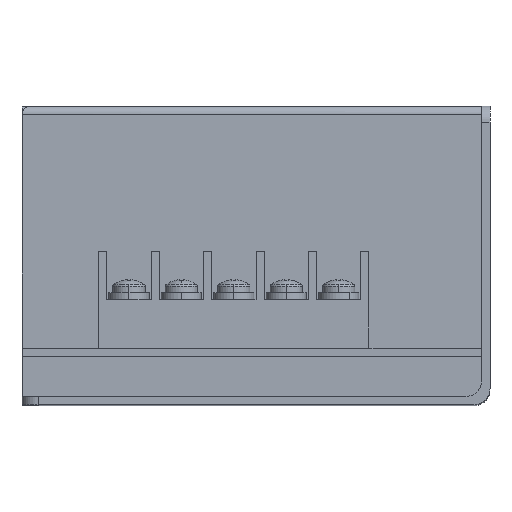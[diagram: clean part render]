
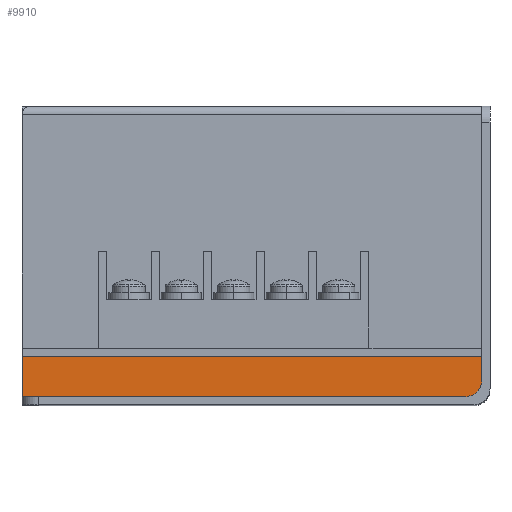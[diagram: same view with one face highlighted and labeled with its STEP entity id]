
A CAD part, top view. The second image highlights one B-rep face of the part: STEP entity #9910.
In plain terms, the highlighted planar face has unit normal (0, 0, 1).
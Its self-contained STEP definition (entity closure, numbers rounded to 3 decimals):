
#158 = CARTESIAN_POINT ( 'NONE',  ( 13.685, 35.93, 83.57 ) ) ;
#269 = VERTEX_POINT ( 'NONE', #2570 ) ;
#582 = LINE ( 'NONE', #10959, #8241 ) ;
#806 = VERTEX_POINT ( 'NONE', #6986 ) ;
#1092 = EDGE_CURVE ( 'NONE', #1863, #806, #582, .T. ) ;
#1620 = PLANE ( 'NONE',  #4776 ) ;
#1697 = CARTESIAN_POINT ( 'NONE',  ( 70.685, 37.93, 83.57 ) ) ;
#1863 = VERTEX_POINT ( 'NONE', #3238 ) ;
#1918 = EDGE_CURVE ( 'NONE', #2046, #269, #14001, .T. ) ;
#2046 = VERTEX_POINT ( 'NONE', #15527 ) ;
#2538 = EDGE_LOOP ( 'NONE', ( #5275, #4675, #10230, #9642, #2972 ) ) ;
#2570 = CARTESIAN_POINT ( 'NONE',  ( 70.685, 40.93, 83.57 ) ) ;
#2972 = ORIENTED_EDGE ( 'NONE', *, *, #9443, .T. ) ;
#3238 = CARTESIAN_POINT ( 'NONE',  ( 68.685, 35.93, 83.57 ) ) ;
#3401 = CIRCLE ( 'NONE', #7752, 2. ) ;
#3657 = CARTESIAN_POINT ( 'NONE',  ( 68.685, 37.93, 83.57 ) ) ;
#4079 = VECTOR ( 'NONE', #5188, 1000. ) ;
#4675 = ORIENTED_EDGE ( 'NONE', *, *, #7637, .F. ) ;
#4776 = AXIS2_PLACEMENT_3D ( 'NONE', #158, #5367, #10562 ) ;
#5188 = DIRECTION ( 'NONE',  ( 0., 1., 0. ) ) ;
#5275 = ORIENTED_EDGE ( 'NONE', *, *, #1918, .F. ) ;
#5367 = DIRECTION ( 'NONE',  ( 0., 0., -1. ) ) ;
#6378 = DIRECTION ( 'NONE',  ( 1., 0., 0. ) ) ;
#6381 = LINE ( 'NONE', #12916, #4079 ) ;
#6986 = CARTESIAN_POINT ( 'NONE',  ( 13.685, 35.93, 83.57 ) ) ;
#7576 = CARTESIAN_POINT ( 'NONE',  ( 13.685, 40.93, 83.57 ) ) ;
#7637 = EDGE_CURVE ( 'NONE', #806, #2046, #6381, .T. ) ;
#7671 = DIRECTION ( 'NONE',  ( 0., 1., 0. ) ) ;
#7752 = AXIS2_PLACEMENT_3D ( 'NONE', #3657, #12351, #16462 ) ;
#8241 = VECTOR ( 'NONE', #14829, 1000. ) ;
#9226 = EDGE_CURVE ( 'NONE', #1863, #13484, #3401, .T. ) ;
#9383 = VECTOR ( 'NONE', #7671, 1000. ) ;
#9443 = EDGE_CURVE ( 'NONE', #13484, #269, #11482, .T. ) ;
#9642 = ORIENTED_EDGE ( 'NONE', *, *, #9226, .T. ) ;
#9910 = ADVANCED_FACE ( 'NONE', ( #11909 ), #1620, .F. ) ;
#10230 = ORIENTED_EDGE ( 'NONE', *, *, #1092, .F. ) ;
#10562 = DIRECTION ( 'NONE',  ( -1., 0., 0. ) ) ;
#10959 = CARTESIAN_POINT ( 'NONE',  ( 13.685, 35.93, 83.57 ) ) ;
#11482 = LINE ( 'NONE', #16621, #9383 ) ;
#11909 = FACE_OUTER_BOUND ( 'NONE', #2538, .T. ) ;
#12351 = DIRECTION ( 'NONE',  ( 0., 0., 1. ) ) ;
#12916 = CARTESIAN_POINT ( 'NONE',  ( 13.685, 35.93, 83.57 ) ) ;
#13484 = VERTEX_POINT ( 'NONE', #1697 ) ;
#14001 = LINE ( 'NONE', #7576, #14990 ) ;
#14829 = DIRECTION ( 'NONE',  ( -1., 0., 0. ) ) ;
#14990 = VECTOR ( 'NONE', #6378, 1000. ) ;
#15527 = CARTESIAN_POINT ( 'NONE',  ( 13.685, 40.93, 83.57 ) ) ;
#16462 = DIRECTION ( 'NONE',  ( -1., 0., 0. ) ) ;
#16621 = CARTESIAN_POINT ( 'NONE',  ( 70.685, 35.93, 83.57 ) ) ;
